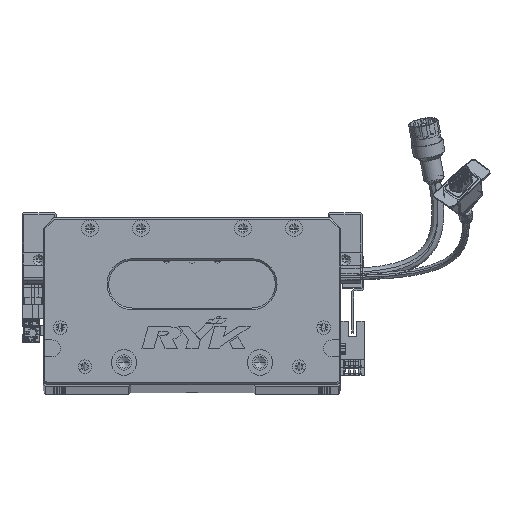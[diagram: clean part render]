
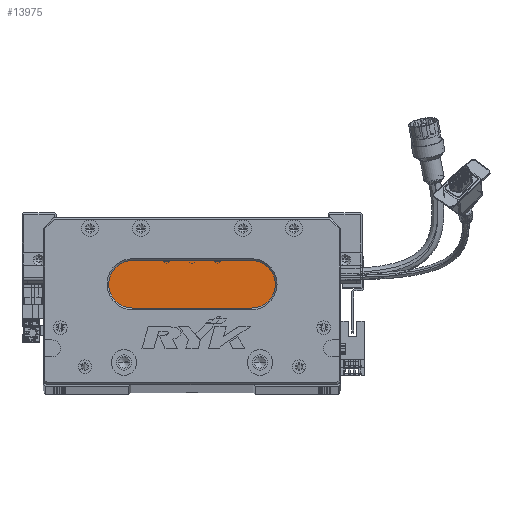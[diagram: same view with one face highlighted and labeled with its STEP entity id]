
A CAD part, top view. The second image highlights one B-rep face of the part: STEP entity #13975.
In plain terms, the highlighted planar face has unit normal (0, 0, 1) as drawn and (0, 0, -1) by its records, which use the part's own axes.
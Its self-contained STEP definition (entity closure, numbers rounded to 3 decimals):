
#183 = ORIENTED_EDGE ( 'NONE', *, *, #60463, .T. ) ;
#3263 = DIRECTION ( 'NONE',  ( -1., 0., 0. ) ) ;
#6052 = DIRECTION ( 'NONE',  ( -1., 0., 0. ) ) ;
#8655 = CARTESIAN_POINT ( 'NONE',  ( 122.5, 73., 18. ) ) ;
#11439 = LINE ( 'NONE', #8655, #41122 ) ;
#12018 = CARTESIAN_POINT ( 'NONE',  ( 122.5, 59., 18. ) ) ;
#13596 = ORIENTED_EDGE ( 'NONE', *, *, #114881, .T. ) ;
#13975 = ADVANCED_FACE ( 'NONE', ( #37961 ), #16540, .T. ) ;
#16540 = PLANE ( 'NONE',  #110052 ) ;
#17489 = DIRECTION ( 'NONE',  ( -1., 0., 0. ) ) ;
#21629 = CARTESIAN_POINT ( 'NONE',  ( 122.5, 45., 18. ) ) ;
#25459 = ORIENTED_EDGE ( 'NONE', *, *, #95111, .T. ) ;
#26901 = VERTEX_POINT ( 'NONE', #108195 ) ;
#32178 = EDGE_CURVE ( 'NONE', #26901, #39112, #53490, .T. ) ;
#35203 = AXIS2_PLACEMENT_3D ( 'NONE', #119401, #69062, #128127 ) ;
#37961 = FACE_OUTER_BOUND ( 'NONE', #114417, .T. ) ;
#38713 = VECTOR ( 'NONE', #82129, 1000. ) ;
#39112 = VERTEX_POINT ( 'NONE', #61987 ) ;
#41122 = VECTOR ( 'NONE', #107888, 1000. ) ;
#41907 = CARTESIAN_POINT ( 'NONE',  ( 122.5, 45., 18. ) ) ;
#47083 = VERTEX_POINT ( 'NONE', #41907 ) ;
#51602 = VERTEX_POINT ( 'NONE', #112998 ) ;
#52477 = AXIS2_PLACEMENT_3D ( 'NONE', #107113, #106668, #17489 ) ;
#53464 = DIRECTION ( 'NONE',  ( 0., 0., -1. ) ) ;
#53490 = CIRCLE ( 'NONE', #35203, 14. ) ;
#54658 = CIRCLE ( 'NONE', #60068, 14. ) ;
#60068 = AXIS2_PLACEMENT_3D ( 'NONE', #12018, #53464, #3263 ) ;
#60463 = EDGE_CURVE ( 'NONE', #47083, #26901, #65170, .T. ) ;
#61987 = CARTESIAN_POINT ( 'NONE',  ( 38.5, 59., 18. ) ) ;
#65170 = LINE ( 'NONE', #21629, #38713 ) ;
#69062 = DIRECTION ( 'NONE',  ( 0., 0., -1. ) ) ;
#82129 = DIRECTION ( 'NONE',  ( -1., 0., 0. ) ) ;
#91690 = CARTESIAN_POINT ( 'NONE',  ( 52.5, 73., 18. ) ) ;
#95111 = EDGE_CURVE ( 'NONE', #39112, #119800, #96657, .T. ) ;
#96657 = CIRCLE ( 'NONE', #52477, 14. ) ;
#106668 = DIRECTION ( 'NONE',  ( 0., 0., -1. ) ) ;
#107113 = CARTESIAN_POINT ( 'NONE',  ( 52.5, 59., 18. ) ) ;
#107888 = DIRECTION ( 'NONE',  ( 1., 0., 0. ) ) ;
#108195 = CARTESIAN_POINT ( 'NONE',  ( 52.5, 45., 18. ) ) ;
#110052 = AXIS2_PLACEMENT_3D ( 'NONE', #116117, #125250, #6052 ) ;
#112998 = CARTESIAN_POINT ( 'NONE',  ( 122.5, 73., 18. ) ) ;
#114417 = EDGE_LOOP ( 'NONE', ( #119521, #183, #127065, #25459, #13596 ) ) ;
#114881 = EDGE_CURVE ( 'NONE', #119800, #51602, #11439, .T. ) ;
#116117 = CARTESIAN_POINT ( 'NONE',  ( 122.5, 59., 18. ) ) ;
#119401 = CARTESIAN_POINT ( 'NONE',  ( 52.5, 59., 18. ) ) ;
#119521 = ORIENTED_EDGE ( 'NONE', *, *, #128935, .T. ) ;
#119800 = VERTEX_POINT ( 'NONE', #91690 ) ;
#125250 = DIRECTION ( 'NONE',  ( 0., 0., -1. ) ) ;
#127065 = ORIENTED_EDGE ( 'NONE', *, *, #32178, .T. ) ;
#128127 = DIRECTION ( 'NONE',  ( -1., 0., 0. ) ) ;
#128935 = EDGE_CURVE ( 'NONE', #51602, #47083, #54658, .T. ) ;
